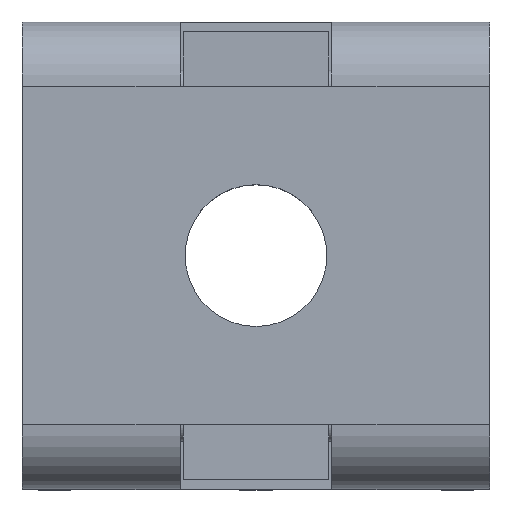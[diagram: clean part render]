
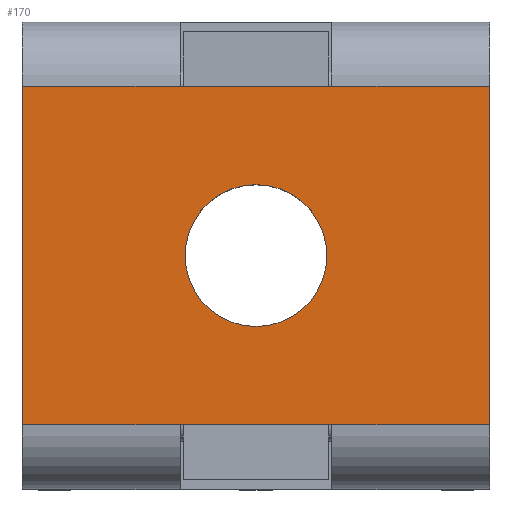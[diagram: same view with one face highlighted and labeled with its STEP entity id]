
A CAD part, top view. The second image highlights one B-rep face of the part: STEP entity #170.
In plain terms, the highlighted planar face has unit normal (0, 0, 1).
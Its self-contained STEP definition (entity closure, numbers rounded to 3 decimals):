
#107=FACE_BOUND('',#377,.T.);
#108=FACE_BOUND('',#378,.T.);
#170=ADVANCED_FACE('',(#107,#108),#244,.F.);
#244=PLANE('',#1791);
#377=EDGE_LOOP('',(#682));
#378=EDGE_LOOP('',(#683,#684,#685,#686,#687,#688,#689,#690));
#502=CIRCLE('',#1790,2.2);
#682=ORIENTED_EDGE('',*,*,#1286,.F.);
#683=ORIENTED_EDGE('',*,*,#1287,.T.);
#684=ORIENTED_EDGE('',*,*,#1172,.F.);
#685=ORIENTED_EDGE('',*,*,#1288,.F.);
#686=ORIENTED_EDGE('',*,*,#1257,.F.);
#687=ORIENTED_EDGE('',*,*,#1289,.F.);
#688=ORIENTED_EDGE('',*,*,#1267,.T.);
#689=ORIENTED_EDGE('',*,*,#1290,.F.);
#690=ORIENTED_EDGE('',*,*,#1225,.T.);
#1015=VERTEX_POINT('',#2398);
#1016=VERTEX_POINT('',#2400);
#1067=VERTEX_POINT('',#2507);
#1068=VERTEX_POINT('',#2508);
#1097=VERTEX_POINT('',#2572);
#1098=VERTEX_POINT('',#2573);
#1103=VERTEX_POINT('',#2590);
#1104=VERTEX_POINT('',#2592);
#1106=VERTEX_POINT('',#2621);
#1172=EDGE_CURVE('',#1015,#1016,#1395,.T.);
#1225=EDGE_CURVE('',#1067,#1068,#1427,.T.);
#1257=EDGE_CURVE('',#1097,#1098,#1445,.T.);
#1267=EDGE_CURVE('',#1104,#1103,#1448,.T.);
#1286=EDGE_CURVE('',#1106,#1106,#502,.T.);
#1287=EDGE_CURVE('',#1068,#1016,#1465,.T.);
#1288=EDGE_CURVE('',#1098,#1015,#1466,.T.);
#1289=EDGE_CURVE('',#1104,#1097,#1467,.T.);
#1290=EDGE_CURVE('',#1067,#1103,#1468,.T.);
#1395=LINE('',#2399,#1563);
#1427=LINE('',#2506,#1595);
#1445=LINE('',#2571,#1613);
#1448=LINE('',#2591,#1616);
#1465=LINE('',#2622,#1633);
#1466=LINE('',#2623,#1634);
#1467=LINE('',#2624,#1635);
#1468=LINE('',#2625,#1636);
#1563=VECTOR('',#1914,1.);
#1595=VECTOR('',#1994,1.);
#1613=VECTOR('',#2046,1.);
#1616=VECTOR('',#2069,1.);
#1633=VECTOR('',#2108,1.);
#1634=VECTOR('',#2109,1.);
#1635=VECTOR('',#2110,1.);
#1636=VECTOR('',#2111,1.);
#1790=AXIS2_PLACEMENT_3D('',#2620,#2106,#2107);
#1791=AXIS2_PLACEMENT_3D('',#2626,#2112,#2113);
#1914=DIRECTION('',(-1.,0.,0.));
#1994=DIRECTION('',(-1.,0.,0.));
#2046=DIRECTION('',(-1.,0.,0.));
#2069=DIRECTION('',(-1.,0.,0.));
#2106=DIRECTION('',(0.,0.,1.));
#2107=DIRECTION('',(-1.,0.,0.));
#2108=DIRECTION('',(0.,-1.,0.));
#2109=DIRECTION('',(-1.,0.,0.));
#2110=DIRECTION('',(0.,-1.,0.));
#2111=DIRECTION('',(1.,0.,0.));
#2112=DIRECTION('',(0.,0.,-1.));
#2113=DIRECTION('',(0.,-1.,0.));
#2398=CARTESIAN_POINT('',(4.9,2.,10.));
#2399=CARTESIAN_POINT('',(14.5,2.,10.));
#2400=CARTESIAN_POINT('',(0.,2.,10.));
#2506=CARTESIAN_POINT('',(14.5,12.5,10.));
#2507=CARTESIAN_POINT('',(4.9,12.5,10.));
#2508=CARTESIAN_POINT('',(0.,12.5,10.));
#2571=CARTESIAN_POINT('',(14.5,2.,10.));
#2572=CARTESIAN_POINT('',(14.5,2.,10.));
#2573=CARTESIAN_POINT('',(9.6,2.,10.));
#2590=CARTESIAN_POINT('',(9.6,12.5,10.));
#2591=CARTESIAN_POINT('',(14.5,12.5,10.));
#2592=CARTESIAN_POINT('',(14.5,12.5,10.));
#2620=CARTESIAN_POINT('',(7.25,7.25,10.));
#2621=CARTESIAN_POINT('',(5.05,7.25,10.));
#2622=CARTESIAN_POINT('',(0.,7.25,10.));
#2623=CARTESIAN_POINT('',(9.5,2.,10.));
#2624=CARTESIAN_POINT('',(14.5,12.5,10.));
#2625=CARTESIAN_POINT('',(5.,12.5,10.));
#2626=CARTESIAN_POINT('',(14.5,7.25,10.));
